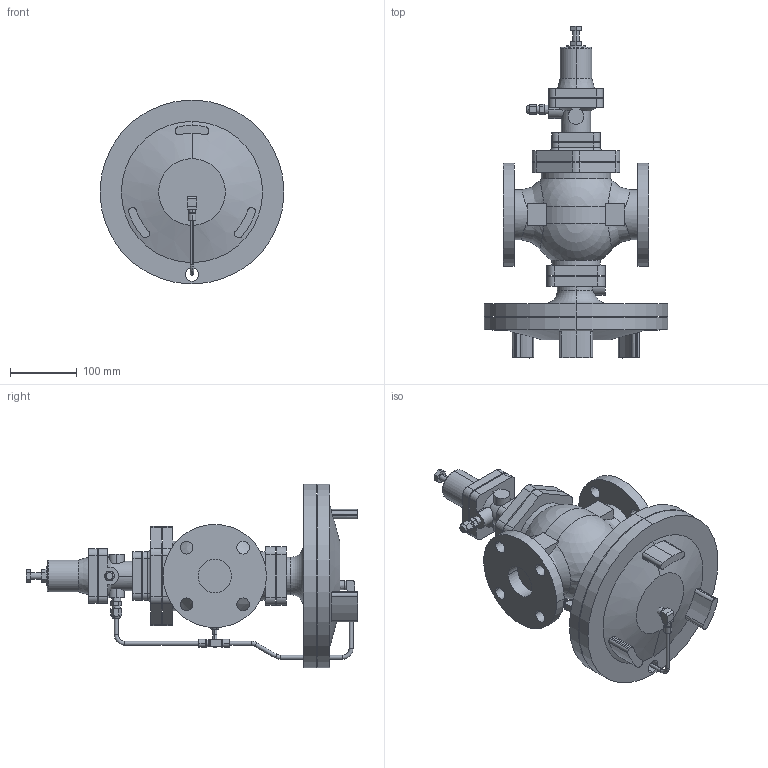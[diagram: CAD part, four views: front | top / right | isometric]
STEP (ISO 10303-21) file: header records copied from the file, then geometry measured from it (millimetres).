
FILE_DESCRIPTION (( 'STEP AP203' ), '1' );
FILE_NAME ('GPR-2000 JIS10K 50A.STEP', '2025-12-05T02:38:15', ( '' ), ( '' ), 'SwSTEP 2.0', 'SolidWorks 2024', '' );
FILE_SCHEMA (( 'CONFIG_CONTROL_DESIGN' ));
Length unit declared in the file: millimetre
Products named in the file (8): GP-2000 Pipe A 50A; Joint; Elbow; GPR-2000 JIS10K 50A; Tee; Pipe C 50A; GPR-2000 Body Assy EN 50A; Pipe B 50A
Assembly tree (9 placements, depth 2):
  GPR-2000 JIS10K 50A
    GPR-2000 Body Assy EN 50A
    Tee
    Pipe B 50A
    Joint  x3
    GP-2000 Pipe A 50A
    Elbow
    Pipe C 50A
Bounding box: 276 x 498.1 x 276 mm (x, y, z)
Volume: 6429055.1 mm3; surface area: 519486.3 mm2
Topology: 9 solids, 9 shells, 459 faces, 1167 edges, 771 vertices
Faces by surface type: plane 211, cylinder 194, cone 28, torus 18, sphere 4, bspline 4
Entity records: 15439 total; most frequent: CARTESIAN_POINT 4436, DIRECTION 2201, ORIENTED_EDGE 2050, EDGE_CURVE 1025, AXIS2_PLACEMENT_3D 846, VERTEX_POINT 671, VECTOR 509, LINE 509
